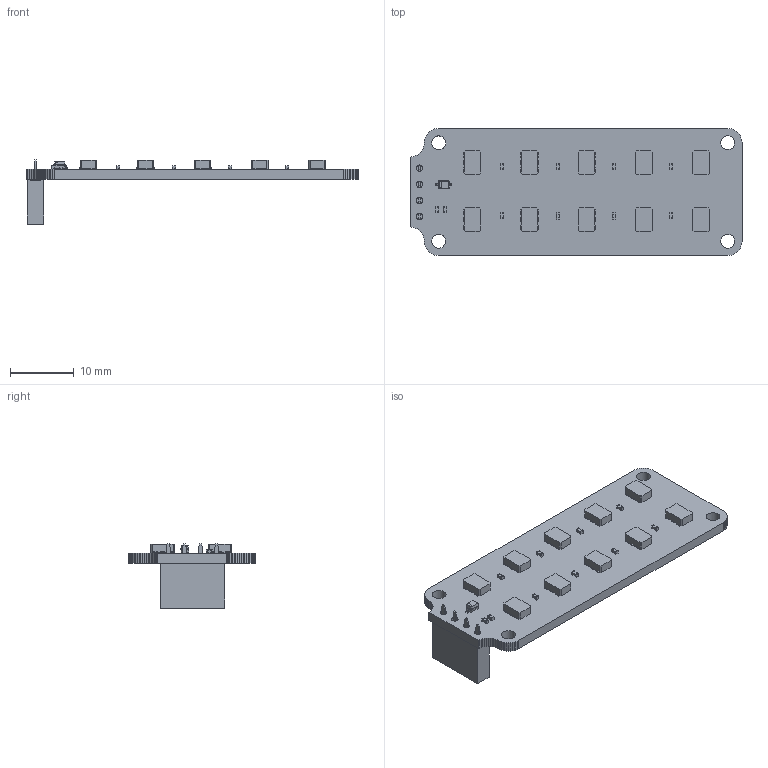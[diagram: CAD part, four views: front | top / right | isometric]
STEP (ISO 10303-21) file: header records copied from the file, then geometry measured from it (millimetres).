
FILE_DESCRIPTION(('KiCad electronic assembly'),'2;1');
FILE_NAME('led.step','2023-11-22T20:41:39',('Pcbnew'),('Kicad'), 'Open CASCADE STEP processor 7.6','KiCad to STEP converter','Unknown' );
FILE_SCHEMA(('AUTOMOTIVE_DESIGN { 1 0 10303 214 1 1 1 1 }'));
Length unit declared in the file: millimetre
Products named in the file (10): led 1; led_SK6812mini-fa; COMPOUND; C_0402_1005Metric; SOLID; D_SOD-323; PinSocket_1x04_P2.54mm_Vertical; led PCB
Assembly tree (27 placements, depth 3):
  led 1
    led_SK6812mini-fa  x10
      COMPOUND
    C_0402_1005Metric  x10
      SOLID
    D_SOD-323
      SOLID
    PinSocket_1x04_P2.54mm_Vertical
      SOLID
    led PCB
Bounding box: 52.25 x 20 x 10.1 mm (x, y, z)
Volume: 1890.2 mm3; surface area: 3089.3 mm2
Topology: 83 solids, 83 shells, 1027 faces, 2432 edges, 1604 vertices
Faces by surface type: plane 865, cylinder 136, bspline 26
Full cylindrical faces by diameter (mm): 1 x4, 2.2 x4
Entity records: 24637 total; most frequent: CARTESIAN_POINT 4141, DIRECTION 3427, LINE 2569, VECTOR 2569, ORIENTED_EDGE 1840, PCURVE 1840, DEFINITIONAL_REPRESENTATION 1840, EDGE_CURVE 920
